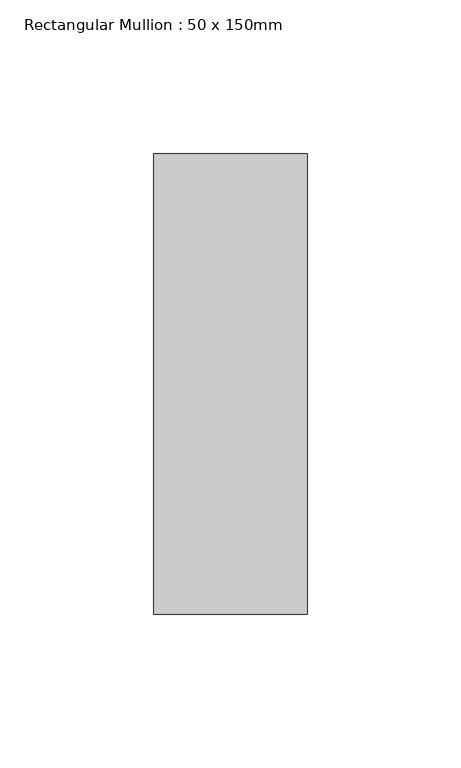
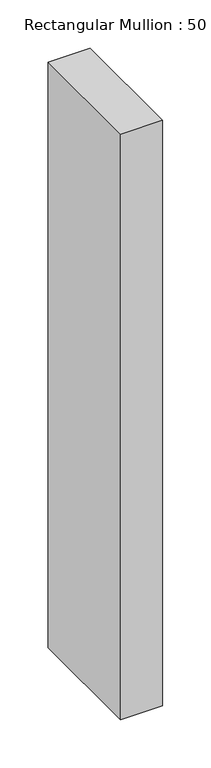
"""IFC4 building model written with IfcOpenShell, lengths in millimetres: member geometry, Rectangular Mullion : 50 x 150mm."""

from ifc_helpers import new_model, si_unit, frame, origin, place, context, project, spatial, polyline, outline, extrude, source, transform, mapped, element, save


def rectangular_mullion_50_x_150mm_9a38d7ad(model_context):
    return source(origin(), model_context, "Body", "SweptSolid", [
        extrude(outline(polyline([(0.0, 75.0), (0.0, -75.0), (-50.0, -75.0), (-50.0, 75.0), (0.0, 75.0)])), frame((0.0, 0.0, -738.3333332), z_axis=(0.0, 0.0, 1.0), x_axis=(1.0, 0.0, 0.0)), (0.0, 0.0, 1.0), 738.3333332),
    ])


if __name__ == "__main__":
    model = new_model("IFC4")
    model_context = context("Model", 3, world=origin())
    ifc_project = project(units=[si_unit("LENGTHUNIT", "METRE", prefix="MILLI")], contexts=[model_context])
    site = spatial("IfcSite", under=ifc_project)
    building = spatial("IfcBuilding", under=site)
    placement = place(None, origin())
    rectangular_mullion_50_x_150mm_shape = rectangular_mullion_50_x_150mm_9a38d7ad(model_context)
    element("IfcMember", 1, ObjectType="Rectangular Mullion : 50 x 150mm", at=placement, inside=building, context=model_context, shape_type="MappedRepresentation", body=[
        mapped(rectangular_mullion_50_x_150mm_shape, transform((0.0, 0.0, 0.0), x_axis=(1.0, 0.0, 0.0), y_axis=(0.0, 1.0, 0.0), z_axis=(0.0, 0.0, 1.0))),
    ])
    save(model, "model.ifc")
